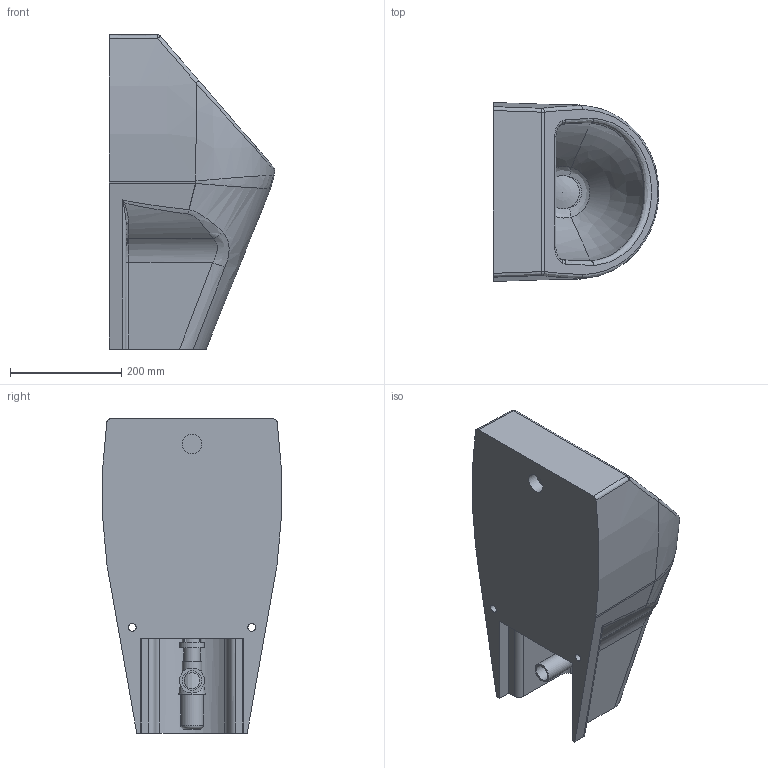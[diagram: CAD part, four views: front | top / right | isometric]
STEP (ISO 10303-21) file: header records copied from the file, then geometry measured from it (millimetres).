
FILE_DESCRIPTION((''),'2;1');
FILE_NAME('C:\Users\Administrator\Desktop\NEWS 2015 Step 1\D-CODE\3d\stp\082930.stp','2015-05-21T14:13:06',('Administrator'),(''),'Autodesk Inventor 2011','Autodesk Inventor 2011','');
FILE_SCHEMA(('CONFIG_CONTROL_DESIGN'));
Length unit declared in the file: millimetre
Products named in the file (6): 082930; Stopfen; Urinal_Stopfen; Siphon Urinal D-CODE; Anschlussrohr Siphon Urinal D-CODE
Assembly tree (5 placements, depth 2):
  082930
    082930
    Stopfen
    Urinal_Stopfen
    Siphon Urinal D-CODE
    Anschlussrohr Siphon Urinal D-CODE
Bounding box: 297.57 x 321.91 x 565 mm (x, y, z)
Volume: 16426657.7 mm3; surface area: 876246.1 mm2
Topology: 5 solids, 5 shells, 180 faces, 437 edges, 271 vertices
Faces by surface type: bspline 75, plane 46, cylinder 41, torus 13, sphere 4, cone 1
Full cylindrical faces by diameter (mm): 14 x2, 20 x1, 21.886 x1, 28 x1, 28.749 x1, 29 x1, 34.55 x1, 35 x4, 40.754 x1, 45 x2, 49.67 x1, 52 x1, 57.275 x1, 60 x1
Entity records: 9614 total; most frequent: CARTESIAN_POINT 5842, ORIENTED_EDGE 804, DIRECTION 596, EDGE_CURVE 402, VERTEX_POINT 265, AXIS2_PLACEMENT_3D 253, EDGE_LOOP 221, FACE_OUTER_BOUND 180
